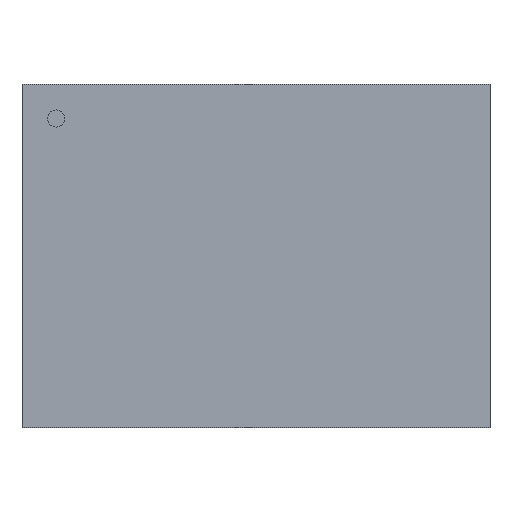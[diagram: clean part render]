
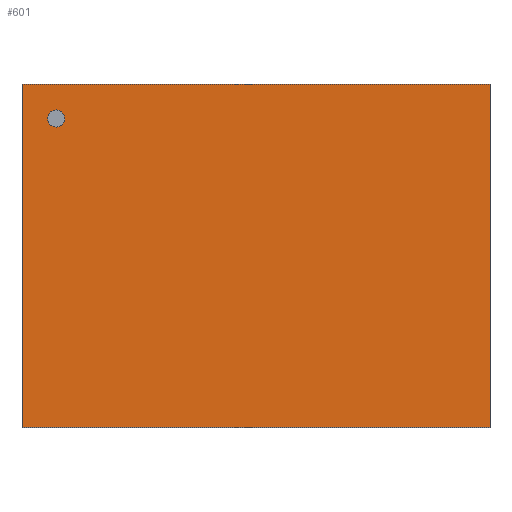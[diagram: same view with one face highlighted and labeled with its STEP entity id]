
A CAD part, top view. The second image highlights one B-rep face of the part: STEP entity #601.
In plain terms, the highlighted planar face has unit normal (0, 0, 1).
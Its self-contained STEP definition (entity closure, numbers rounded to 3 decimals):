
#377=CARTESIAN_POINT('',(0.952,-0.698,0.686));
#376=VERTEX_POINT('',#377);
#387=CARTESIAN_POINT('',(-0.952,-0.698,0.686));
#386=VERTEX_POINT('',#387);
#385=EDGE_CURVE('',#386,#376,#390,.T.);
#390=LINE('',#387,#392);
#392=VECTOR('',#393,1.905);
#393=DIRECTION('',(1.0,0.0,0.0));
#426=CARTESIAN_POINT('',(0.952,0.698,0.686));
#425=VERTEX_POINT('',#426);
#434=EDGE_CURVE('',#376,#425,#439,.T.);
#439=LINE('',#377,#441);
#441=VECTOR('',#442,1.397);
#442=DIRECTION('',(0.0,1.0,0.0));
#475=CARTESIAN_POINT('',(-0.952,0.698,0.686));
#474=VERTEX_POINT('',#475);
#483=EDGE_CURVE('',#425,#474,#488,.T.);
#488=LINE('',#426,#490);
#490=VECTOR('',#491,1.905);
#491=DIRECTION('',(-1.0,0.0,0.0));
#532=EDGE_CURVE('',#474,#386,#537,.T.);
#537=LINE('',#475,#539);
#539=VECTOR('',#540,1.397);
#540=DIRECTION('',(0.0,-1.0,0.0));
#601=ADVANCED_FACE('',(#607),#602,.T.);
#602=PLANE('',#603);
#603=AXIS2_PLACEMENT_3D('',#604,#605,#606);
#604=CARTESIAN_POINT('',(-0.952,-0.698,0.686));
#605=DIRECTION('',(0.0,0.0,1.0));
#606=DIRECTION('',(0.,1.,0.));
#607=FACE_OUTER_BOUND('',#608,.T.);
#608=EDGE_LOOP('',(#609,#619,#629,#639));
#609=ORIENTED_EDGE('',*,*,#385,.T.);
#619=ORIENTED_EDGE('',*,*,#434,.T.);
#629=ORIENTED_EDGE('',*,*,#483,.T.);
#639=ORIENTED_EDGE('',*,*,#532,.T.);
